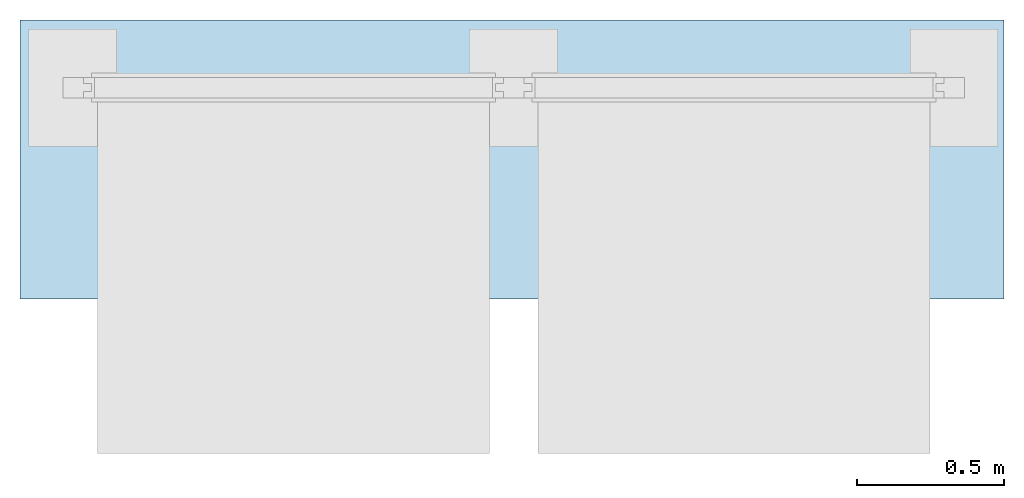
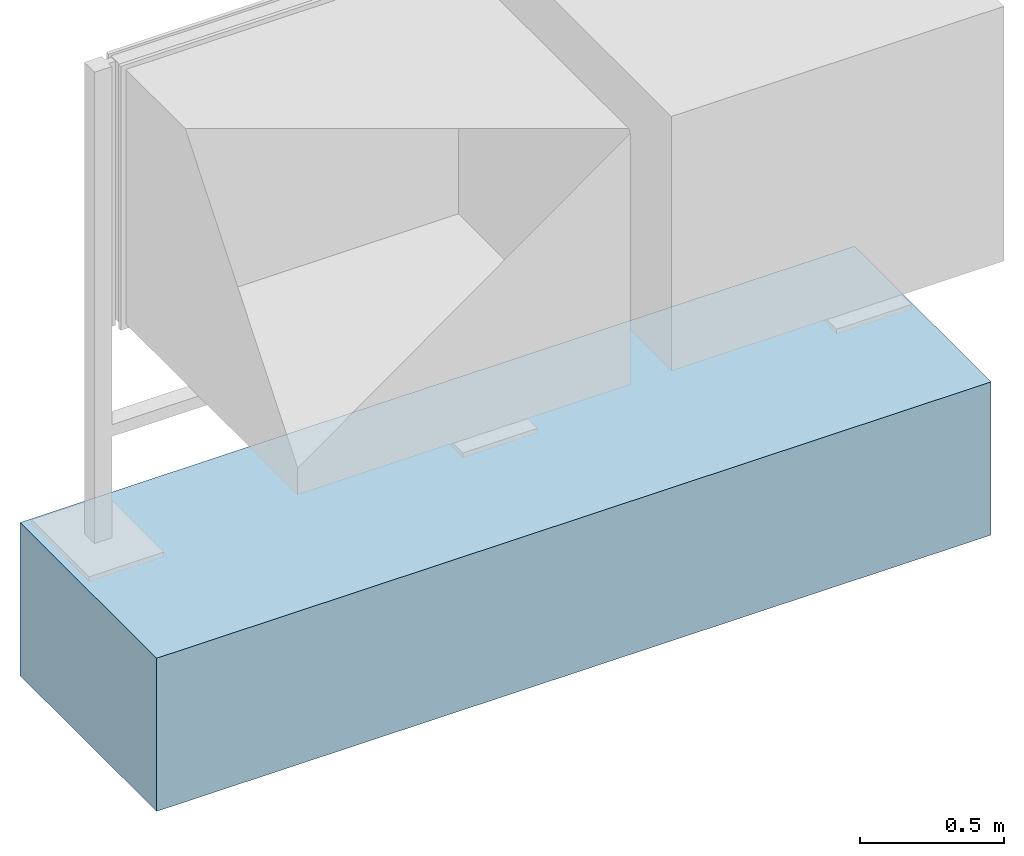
# One storey, incomplete: 1 slab.
"""IFC4 building model written with IfcOpenShell, lengths in metres."""

from ifc_helpers import new_model, entity, si_unit, converted_unit, direction, frame, frame_2d, origin, place, context, subcontext, project, spatial, rectangle, extrude, material, type_object, element, save


model = new_model("IFC4")

# Units and contexts
model_context = context("Model", 3, precision=1e-05, world=origin(), true_north=direction((6.123031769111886e-17, 1.0)))
body_context = subcontext(model_context, "Body", "Model", "MODEL_VIEW")
ifc_project = project(units=[si_unit("LENGTHUNIT", "METRE"), converted_unit("PLANEANGLEUNIT", "DEGREE", entity("IfcPlaneAngleMeasure", 0.017453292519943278), si_unit("PLANEANGLEUNIT", "RADIAN"), dimensions=[0, 0, 0, 0, 0, 0, 0]), si_unit("AREAUNIT", "SQUARE_METRE")], contexts=[model_context])

# Site, building, storey
site_placement = place(None, origin())
site = spatial("IfcSite", under=ifc_project, at=site_placement, Name="Default", CompositionType="ELEMENT")
building_placement = place(site_placement, origin())
building = spatial("IfcBuilding", under=site, at=building_placement, CompositionType="ELEMENT")
storey_placement = place(building_placement, origin())
storey = spatial("IfcBuildingStorey", under=building, at=storey_placement, Name="Ebene 0", CompositionType="ELEMENT", Elevation=0.0)

# Slab
ifc_material = material(Name="DB_Magerbeton", Category="DB_Beton")
slab_type = type_object("IfcSlabType", Name="DB_Vitrine_Fundament_zweifeldrig_Windlastzone_1_2:DB_Vitrine_Fundament_zweifeldrig_Windlastzone_1_2", PredefinedType="BASESLAB", material=ifc_material)
slab_placement = place(storey_placement, origin())
element("IfcSlab", 1, at=slab_placement, inside=storey, type_object=slab_type, Name="DB_Vitrine_Fundament_zweifeldrig_Windlastzone_1_2:DB_Vitrine_Fundament_zweifeldrig_Windlastzone_1_2", ObjectType="DB_Vitrine_Fundament_zweifeldrig_Windlastzone_1_2:DB_Vitrine_Fundament_zweifeldrig_Windlastzone_1_2", PredefinedType="BASESLAB", context=body_context, shape_type="SweptSolid", body=[
    extrude(rectangle(XDim=0.9500000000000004, YDim=3.3499999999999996, at=frame_2d((0.0, 1.1102230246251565e-16), x_axis=(1.0, 0.0))), frame((1.4943742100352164, -0.24499999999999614, 0.0), z_axis=(0.0, 0.0, 1.0), x_axis=(0.0, -1.0, 0.0)), (0.0, 0.0, 1.0), 0.04999999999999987),
    extrude(rectangle(XDim=3.3499999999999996, YDim=0.95, at=frame_2d((0.0, 2.7755575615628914e-17), x_axis=(1.0, 0.0))), frame((1.494374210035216, -0.24499999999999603, 0.04999999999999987), z_axis=(0.0, 0.0, 1.0), x_axis=(-1.0, 0.0, 0.0)), (0.0, 0.0, 1.0), 0.5999999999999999),
])

save(model, "model.ifc")
